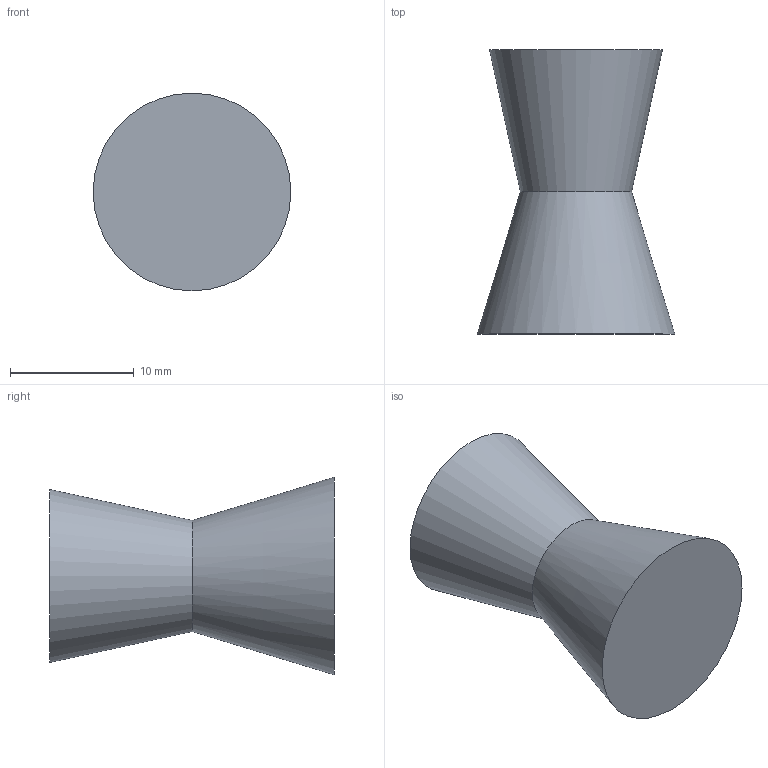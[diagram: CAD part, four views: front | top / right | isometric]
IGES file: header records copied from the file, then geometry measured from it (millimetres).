
Start section: Data from Parasolid IGES Translator 15.0.47, Copyright(c) 2006 Siemens P LM Software. All Rights Reserved.
Global section: file name: 9113564.igs; native system:  By UGS Corp.; preprocessor: XPlus GENERIC/IGES 3.0; author: Noname; organization: Noname; date: 20140122.174222; units: millimetre
Bounding box: 16 x 23 x 16 mm (x, y, z)
Surface area: 1377.9 mm2 (no closed solid volume)
Topology: 0 solids, 0 shells, 6 faces, 18 edges, 14 vertices
Faces by surface type: extrusion 3, revolution 3
